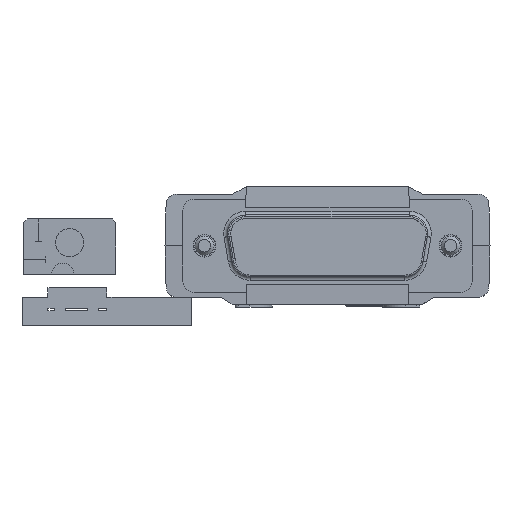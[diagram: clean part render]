
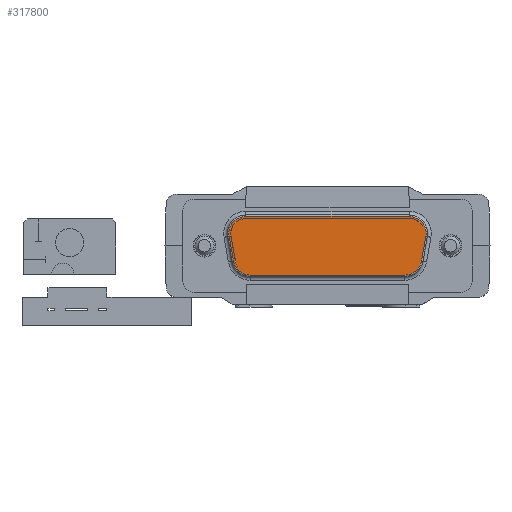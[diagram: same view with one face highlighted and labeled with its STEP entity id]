
A CAD part, left-side view. The second image highlights one B-rep face of the part: STEP entity #317800.
In plain terms, the highlighted planar face has unit normal (-1, 0, 0) as drawn and (1, 0, 0) by its records, which use the part's own axes.
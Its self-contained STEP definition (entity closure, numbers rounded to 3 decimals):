
#233950=CARTESIAN_POINT('',(-10.578,-37.393,
1.67));
#233960=DIRECTION('',(1.,0.,0.));
#233970=DIRECTION('',(0.,-1.,0.));
#233980=AXIS2_PLACEMENT_3D('',#233950,#233960,#233970);
#233990=CIRCLE('',#233980,2.05);
#234000=CARTESIAN_POINT('',(-10.578,-35.374,
2.026));
#234010=VERTEX_POINT('',#234000);
#234020=CARTESIAN_POINT('',(-10.578,-35.653,
2.755));
#234030=VERTEX_POINT('',#234020);
#234040=EDGE_CURVE('',#234010,#234030,#233990,.T.);
#259490=CARTESIAN_POINT('',(-10.578,-58.929,
-3.696));
#259500=VERTEX_POINT('',#259490);
#259550=CARTESIAN_POINT('',(-10.578,-44.902,
-3.696));
#259560=DIRECTION('',(0.,-1.,0.));
#259570=VECTOR('',#259560,1.);
#259580=LINE('',#259550,#259570);
#259590=CARTESIAN_POINT('',(-10.578,-36.819,
-3.696));
#259600=VERTEX_POINT('',#259590);
#259610=EDGE_CURVE('',#259600,#259500,#259580,.T.);
#259990=CARTESIAN_POINT('',(-10.578,-60.669,
-2.73));
#260000=VERTEX_POINT('',#259990);
#260030=CARTESIAN_POINT('',(-10.578,-58.929,
-1.646));
#260040=DIRECTION('',(1.,0.,0.));
#260050=DIRECTION('',(0.,-1.,0.));
#260060=AXIS2_PLACEMENT_3D('',#260030,#260040,#260050);
#260070=CIRCLE('',#260060,2.05);
#260080=EDGE_CURVE('',#260000,#259500,#260070,.T.);
#312340=CARTESIAN_POINT('',(-10.578,-34.8,
-1.29));
#312350=VERTEX_POINT('',#312340);
#312480=CARTESIAN_POINT('',(-10.578,-36.819,
-1.646));
#312490=DIRECTION('',(1.,0.,0.));
#312500=DIRECTION('',(0.,-1.,0.));
#312510=AXIS2_PLACEMENT_3D('',#312480,#312490,#312500);
#312520=CIRCLE('',#312510,2.05);
#312530=EDGE_CURVE('',#259600,#312350,#312520,.T.);
#315330=CARTESIAN_POINT('',(-10.578,-35.389,
2.05));
#315340=VERTEX_POINT('',#315330);
#315460=CARTESIAN_POINT('',(-10.578,-34.8,
-1.29));
#315470=DIRECTION('',(0.,-0.174,
0.985));
#315480=VECTOR('',#315470,1.);
#315490=LINE('',#315460,#315480);
#315500=EDGE_CURVE('',#312350,#315340,#315490,.T.);
#316030=CARTESIAN_POINT('',(-10.578,-34.785,
-1.314));
#316040=VERTEX_POINT('',#316030);
#316070=CARTESIAN_POINT('',(-10.578,-36.804,
-1.67));
#316080=DIRECTION('',(1.,0.,0.));
#316090=DIRECTION('',(0.,-1.,0.));
#316100=AXIS2_PLACEMENT_3D('',#316070,#316080,#316090);
#316110=CIRCLE('',#316100,2.05);
#316120=CARTESIAN_POINT('',(-10.578,-36.804,
-3.72));
#316130=VERTEX_POINT('',#316120);
#316140=EDGE_CURVE('',#316130,#316040,#316110,.T.);
#316390=CARTESIAN_POINT('',(-10.578,-36.128,
6.3));
#316400=DIRECTION('',(0.,-0.174,
0.985));
#316410=VECTOR('',#316400,1.);
#316420=LINE('',#316390,#316410);
#316430=EDGE_CURVE('',#316040,#234010,#316420,.T.);
#316620=CARTESIAN_POINT('',(-10.578,-37.408,
1.694));
#316630=DIRECTION('',(1.,0.,0.));
#316640=DIRECTION('',(0.,-1.,0.));
#316650=AXIS2_PLACEMENT_3D('',#316620,#316630,#316640);
#316660=CIRCLE('',#316650,2.05);
#316670=EDGE_CURVE('',#315340,#234030,#316660,.T.);
#316800=CARTESIAN_POINT('',(-10.578,-29.244,
6.3));
#316810=DIRECTION('',(1.,0.,0.));
#316820=DIRECTION('',(0.,-1.,0.));
#316830=AXIS2_PLACEMENT_3D('',#316800,#316810,#316820);
#316840=PLANE('',#316830);
#316850=ORIENTED_EDGE('',*,*,#316670,.T.);
#316860=ORIENTED_EDGE('',*,*,#315500,.T.);
#316870=ORIENTED_EDGE('',*,*,#312530,.T.);
#316880=ORIENTED_EDGE('',*,*,#259610,.F.);
#316890=ORIENTED_EDGE('',*,*,#260080,.T.);
#316900=CARTESIAN_POINT('',(-10.578,-58.914,
-1.67));
#316910=DIRECTION('',(1.,0.,0.));
#316920=DIRECTION('',(0.,-1.,0.));
#316930=AXIS2_PLACEMENT_3D('',#316900,#316910,#316920);
#316940=CIRCLE('',#316930,2.05);
#316950=CARTESIAN_POINT('',(-10.578,-58.914,
-3.72));
#316960=VERTEX_POINT('',#316950);
#316970=EDGE_CURVE('',#260000,#316960,#316940,.T.);
#316980=ORIENTED_EDGE('',*,*,#316970,.F.);
#316990=CARTESIAN_POINT('',(-10.578,-37.574,
-3.72));
#317000=DIRECTION('',(0.,1.,0.));
#317010=VECTOR('',#317000,1.);
#317020=LINE('',#316990,#317010);
#317030=EDGE_CURVE('',#316960,#316130,#317020,.T.);
#317040=ORIENTED_EDGE('',*,*,#317030,.F.);
#317050=ORIENTED_EDGE('',*,*,#316140,.F.);
#317060=ORIENTED_EDGE('',*,*,#316430,.F.);
#317070=ORIENTED_EDGE('',*,*,#234040,.F.);
#317080=EDGE_LOOP('',(#317070,#317060,#317050,#317040,#316980,#316890,
#316880,#316870,#316860,#316850));
#317090=FACE_BOUND('',#317080,.T.);
#317100=CARTESIAN_POINT('',(-10.578,-37.393,
1.67));
#317110=DIRECTION('',(1.,0.,0.));
#317120=DIRECTION('',(0.,-1.,0.));
#317130=AXIS2_PLACEMENT_3D('',#317100,#317110,#317120);
#317140=CIRCLE('',#317130,2.3);
#317150=CARTESIAN_POINT('',(-10.578,-35.128,
2.069));
#317160=VERTEX_POINT('',#317150);
#317170=CARTESIAN_POINT('',(-10.578,-37.393,
3.97));
#317180=VERTEX_POINT('',#317170);
#317190=EDGE_CURVE('',#317160,#317180,#317140,.T.);
#317200=ORIENTED_EDGE('',*,*,#317190,.T.);
#317210=CARTESIAN_POINT('',(-10.578,-35.874,
6.3));
#317220=DIRECTION('',(0.,-0.174,
0.985));
#317230=VECTOR('',#317220,1.);
#317240=LINE('',#317210,#317230);
#317250=CARTESIAN_POINT('',(-10.578,-34.539,
-1.271));
#317260=VERTEX_POINT('',#317250);
#317270=EDGE_CURVE('',#317260,#317160,#317240,.T.);
#317280=ORIENTED_EDGE('',*,*,#317270,.T.);
#317290=CARTESIAN_POINT('',(-10.578,-36.804,
-1.67));
#317300=DIRECTION('',(1.,0.,0.));
#317310=DIRECTION('',(0.,-1.,0.));
#317320=AXIS2_PLACEMENT_3D('',#317290,#317300,#317310);
#317330=CIRCLE('',#317320,2.3);
#317340=CARTESIAN_POINT('',(-10.578,-36.804,
-3.97));
#317350=VERTEX_POINT('',#317340);
#317360=EDGE_CURVE('',#317350,#317260,#317330,.T.);
#317370=ORIENTED_EDGE('',*,*,#317360,.T.);
#317380=CARTESIAN_POINT('',(-10.578,-37.574,
-3.97));
#317390=DIRECTION('',(0.,-1.,0.));
#317400=VECTOR('',#317390,1.);
#317410=LINE('',#317380,#317400);
#317420=CARTESIAN_POINT('',(-10.578,-58.914,
-3.97));
#317430=VERTEX_POINT('',#317420);
#317440=EDGE_CURVE('',#317350,#317430,#317410,.T.);
#317450=ORIENTED_EDGE('',*,*,#317440,.F.);
#317460=CARTESIAN_POINT('',(-10.578,-58.914,
-1.67));
#317470=DIRECTION('',(1.,0.,0.));
#317480=DIRECTION('',(0.,-1.,0.));
#317490=AXIS2_PLACEMENT_3D('',#317460,#317470,#317480);
#317500=CIRCLE('',#317490,2.3);
#317510=CARTESIAN_POINT('',(-10.578,-61.179,
-1.271));
#317520=VERTEX_POINT('',#317510);
#317530=EDGE_CURVE('',#317520,#317430,#317500,.T.);
#317540=ORIENTED_EDGE('',*,*,#317530,.T.);
#317550=CARTESIAN_POINT('',(-10.578,-59.844,
6.3));
#317560=DIRECTION('',(0.,0.174,
0.985));
#317570=VECTOR('',#317560,1.);
#317580=LINE('',#317550,#317570);
#317590=CARTESIAN_POINT('',(-10.578,-60.59,
2.069));
#317600=VERTEX_POINT('',#317590);
#317610=EDGE_CURVE('',#317520,#317600,#317580,.T.);
#317620=ORIENTED_EDGE('',*,*,#317610,.F.);
#317630=CARTESIAN_POINT('',(-10.578,-58.325,
1.67));
#317640=DIRECTION('',(1.,0.,0.));
#317650=DIRECTION('',(0.,-1.,0.));
#317660=AXIS2_PLACEMENT_3D('',#317630,#317640,#317650);
#317670=CIRCLE('',#317660,2.3);
#317680=CARTESIAN_POINT('',(-10.578,-58.325,
3.97));
#317690=VERTEX_POINT('',#317680);
#317700=EDGE_CURVE('',#317690,#317600,#317670,.T.);
#317710=ORIENTED_EDGE('',*,*,#317700,.T.);
#317720=CARTESIAN_POINT('',(-10.578,-29.244,
3.97));
#317730=DIRECTION('',(0.,-1.,0.));
#317740=VECTOR('',#317730,1.);
#317750=LINE('',#317720,#317740);
#317760=EDGE_CURVE('',#317180,#317690,#317750,.T.);
#317770=ORIENTED_EDGE('',*,*,#317760,.T.);
#317780=EDGE_LOOP('',(#317770,#317710,#317620,#317540,#317450,#317370,
#317280,#317200));
#317790=FACE_OUTER_BOUND('',#317780,.T.);
#317800=ADVANCED_FACE('',(#317090,#317790),#316840,.T.);
